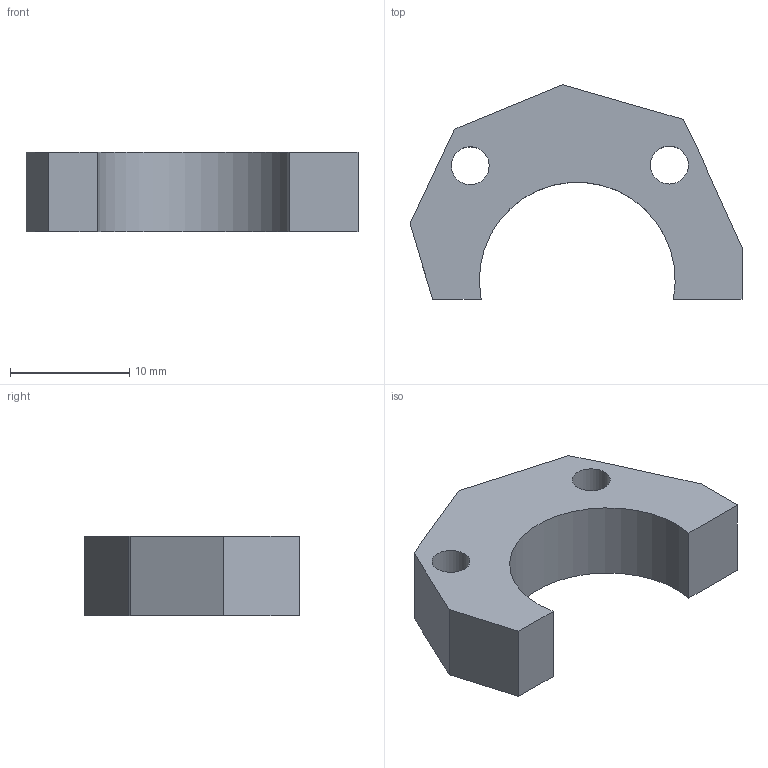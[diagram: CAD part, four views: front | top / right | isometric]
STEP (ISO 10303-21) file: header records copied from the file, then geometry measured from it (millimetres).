
FILE_DESCRIPTION(/* description */ (''),/* implementation_level */ '2;1');
FILE_NAME(/* name */ 'potholder.step',/* time_stamp */ '2026-06-10T02:32:14-04:00',/* author */ (''),/* organization */ (''),/* preprocessor_version */ 'ST-DEVELOPER v20.1',/* originating_system */ 'Autodesk Translation Framework v15.8.0.0',/* authorisation */ '');
FILE_SCHEMA (('AUTOMOTIVE_DESIGN { 1 0 10303 214 3 1 1 }'));
Length unit declared in the file: inch
Products named in the file (1): 2026-06-10-02-32-14-339
Bounding box: 27.81 x 17.97 x 6.68 mm (x, y, z)
Volume: 1640.4 mm3; surface area: 1229.5 mm2
Topology: 1 solids, 1 shells, 15 faces, 39 edges, 26 vertices
Faces by surface type: plane 12, cylinder 3
Full cylindrical faces by diameter (mm): 3.175 x2
Entity records: 509 total; most frequent: CARTESIAN_POINT 81, ORIENTED_EDGE 78, DIRECTION 77, EDGE_CURVE 39, LINE 33, VECTOR 33, VERTEX_POINT 26, AXIS2_PLACEMENT_3D 22
